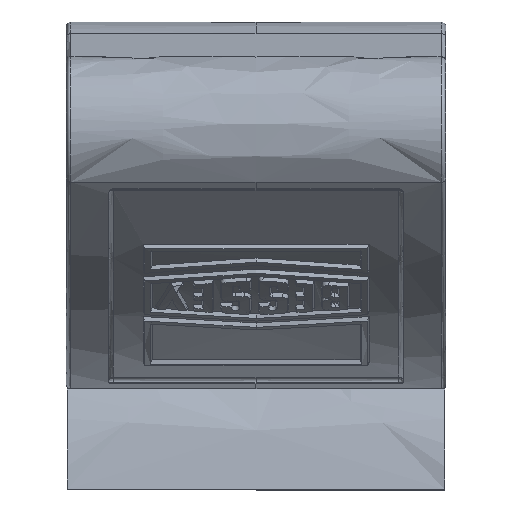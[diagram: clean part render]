
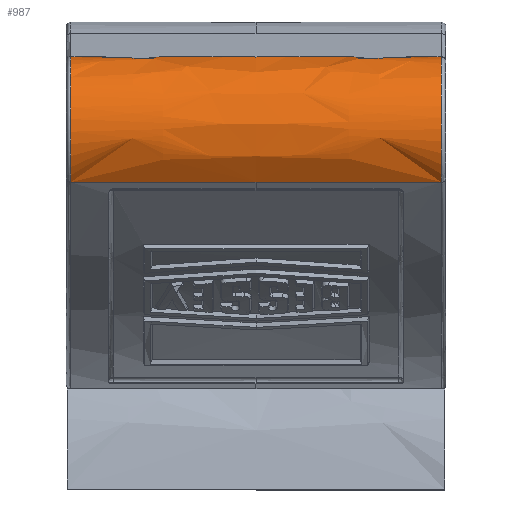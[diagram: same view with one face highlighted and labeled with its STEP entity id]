
A CAD part, top view. The second image highlights one B-rep face of the part: STEP entity #987.
In plain terms, the highlighted free-form (B-spline) face has degree [2, 1] with [7, 2] control points.
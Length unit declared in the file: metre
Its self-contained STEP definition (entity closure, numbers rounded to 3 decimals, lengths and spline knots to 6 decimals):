
#987 = ADVANCED_FACE( '', ( #2482 ), #2483, .T. );
#2482 = FACE_OUTER_BOUND( '', #6111, .T. );
#2483 = ( BOUNDED_SURFACE(  )B_SPLINE_SURFACE( 2, 1, ( ( #6114, #6115 ), ( #6116, #6117 ), ( #6118, #6119 ), ( #6120, #6121 ), ( #6122, #6123 ), ( #6124, #6125 ), ( #6126, #6127 ) ), .UNSPECIFIED., .F., .F., .F. )B_SPLINE_SURFACE_WITH_KNOTS( ( 3, 2, 2, 3 ), ( 2, 2 ), ( 0., 0.25, 0.5, 0.519236 ), ( 0.011111, 0.988889 ), .UNSPECIFIED. )GEOMETRIC_REPRESENTATION_ITEM(  )RATIONAL_B_SPLINE_SURFACE( ( ( 1., 1. ), ( 0.707, 0.707 ), ( 1., 1. ), ( 0.707, 0.707 ), ( 1., 1. ), ( 0.977, 0.977 ), ( 0.958, 0.958 ) ) )REPRESENTATION_ITEM( '' )SURFACE(  ) );
#6111 = EDGE_LOOP( '', ( #13664, #13665, #13666, #13667, #13668 ) );
#6114 = CARTESIAN_POINT( '', ( 0.0352, 0.05814, 0.101431 ) );
#6115 = CARTESIAN_POINT( '', ( -0.0352, 0.05814, 0.101431 ) );
#6116 = CARTESIAN_POINT( '', ( 0.0352, 0.068938, 0.110908 ) );
#6117 = CARTESIAN_POINT( '', ( -0.0352, 0.068938, 0.110908 ) );
#6118 = CARTESIAN_POINT( '', ( 0.0352, 0.078415, 0.10011 ) );
#6119 = CARTESIAN_POINT( '', ( -0.0352, 0.078415, 0.10011 ) );
#6120 = CARTESIAN_POINT( '', ( 0.0352, 0.087892, 0.089313 ) );
#6121 = CARTESIAN_POINT( '', ( -0.0352, 0.087892, 0.089313 ) );
#6122 = CARTESIAN_POINT( '', ( 0.0352, 0.077094, 0.079836 ) );
#6123 = CARTESIAN_POINT( '', ( -0.0352, 0.077094, 0.079836 ) );
#6124 = CARTESIAN_POINT( '', ( 0.0352, 0.076493, 0.079308 ) );
#6125 = CARTESIAN_POINT( '', ( -0.0352, 0.076493, 0.079308 ) );
#6126 = CARTESIAN_POINT( '', ( 0.0352, 0.075838, 0.07885 ) );
#6127 = CARTESIAN_POINT( '', ( -0.0352, 0.075838, 0.07885 ) );
#13664 = ORIENTED_EDGE( '', *, *, #17907, .T. );
#13665 = ORIENTED_EDGE( '', *, *, #17804, .T. );
#13666 = ORIENTED_EDGE( '', *, *, #17908, .F. );
#13667 = ORIENTED_EDGE( '', *, *, #17909, .T. );
#13668 = ORIENTED_EDGE( '', *, *, #17910, .T. );
#17804 = EDGE_CURVE( '', #20827, #20841, #20843, .T. );
#17907 = EDGE_CURVE( '', #19601, #20827, #21022, .T. );
#17908 = EDGE_CURVE( '', #20739, #20841, #21023, .T. );
#17909 = EDGE_CURVE( '', #20739, #21024, #21025, .T. );
#17910 = EDGE_CURVE( '', #21024, #19601, #21026, .T. );
#19601 = VERTEX_POINT( '', #23447 );
#20739 = VERTEX_POINT( '', #27817 );
#20827 = VERTEX_POINT( '', #28191 );
#20841 = VERTEX_POINT( '', #28320 );
#20843 = B_SPLINE_CURVE_WITH_KNOTS( '', 1, ( #28369, #28370 ), .UNSPECIFIED., .F., .F., ( 2, 2 ), ( 0., 0.975 ), .UNSPECIFIED. );
#21022 = B_SPLINE_CURVE_WITH_KNOTS( '', 1, ( #29011, #29012 ), .UNSPECIFIED., .F., .F., ( 2, 2 ), ( 0.025, 1. ), .UNSPECIFIED. );
#21023 = ( BOUNDED_CURVE(  )B_SPLINE_CURVE( 2, ( #29015, #29016, #29017, #29018, #29019, #29020, #29021 ), .UNSPECIFIED., .F., .F. )B_SPLINE_CURVE_WITH_KNOTS( ( 3, 2, 2, 3 ), ( 0., 0.333333, 0.666667, 1. ), .UNSPECIFIED. )CURVE(  )GEOMETRIC_REPRESENTATION_ITEM(  )RATIONAL_B_SPLINE_CURVE( ( 1., 0.857, 1., 0.857, 1., 0.857, 1. ) )REPRESENTATION_ITEM( '' ) );
#21024 = VERTEX_POINT( '', #29027 );
#21025 = ( BOUNDED_CURVE(  )B_SPLINE_CURVE( 1, ( #29030, #29031 ), .UNSPECIFIED., .F., .F. )B_SPLINE_CURVE_WITH_KNOTS( ( 2, 2 ), ( 0.0125, 0.9875 ), .UNSPECIFIED. )CURVE(  )GEOMETRIC_REPRESENTATION_ITEM(  )RATIONAL_B_SPLINE_CURVE( ( 0.958, 0.958 ) )REPRESENTATION_ITEM( '' ) );
#21026 = ( BOUNDED_CURVE(  )B_SPLINE_CURVE( 2, ( #29039, #29040, #29041, #29042, #29043, #29044, #29045 ), .UNSPECIFIED., .F., .F. )B_SPLINE_CURVE_WITH_KNOTS( ( 3, 2, 2, 3 ), ( 0., 0.037046, 0.518523, 1. ), .UNSPECIFIED. )CURVE(  )GEOMETRIC_REPRESENTATION_ITEM(  )RATIONAL_B_SPLINE_CURVE( ( 0.958, 0.977, 1., 0.707, 1., 0.707, 1. ) )REPRESENTATION_ITEM( '' ) );
#23447 = CARTESIAN_POINT( '', ( -0.0351, 0.05814, 0.101431 ) );
#27817 = CARTESIAN_POINT( '', ( 0.0351, 0.075838, 0.07885 ) );
#28191 = CARTESIAN_POINT( '', ( 0., 0.05814, 0.101431 ) );
#28320 = CARTESIAN_POINT( '', ( 0.0351, 0.05814, 0.101431 ) );
#28369 = CARTESIAN_POINT( '', ( 0., 0.05814, 0.101431 ) );
#28370 = CARTESIAN_POINT( '', ( 0.0351, 0.05814, 0.101431 ) );
#29011 = CARTESIAN_POINT( '', ( -0.0351, 0.05814, 0.101431 ) );
#29012 = CARTESIAN_POINT( '', ( 0., 0.05814, 0.101431 ) );
#29015 = CARTESIAN_POINT( '', ( 0.0351, 0.075838, 0.07885 ) );
#29016 = CARTESIAN_POINT( '', ( 0.0351, 0.082935, 0.083802 ) );
#29017 = CARTESIAN_POINT( '', ( 0.0351, 0.081876, 0.09239 ) );
#29018 = CARTESIAN_POINT( '', ( 0.0351, 0.080818, 0.100979 ) );
#29019 = CARTESIAN_POINT( '', ( 0.0351, 0.072731, 0.104059 ) );
#29020 = CARTESIAN_POINT( '', ( 0.0351, 0.064644, 0.107139 ) );
#29021 = CARTESIAN_POINT( '', ( 0.0351, 0.05814, 0.101431 ) );
#29027 = CARTESIAN_POINT( '', ( -0.0351, 0.075838, 0.07885 ) );
#29030 = CARTESIAN_POINT( '', ( 0.0351, 0.075838, 0.07885 ) );
#29031 = CARTESIAN_POINT( '', ( -0.0351, 0.075838, 0.07885 ) );
#29039 = CARTESIAN_POINT( '', ( -0.0351, 0.075838, 0.07885 ) );
#29040 = CARTESIAN_POINT( '', ( -0.0351, 0.076493, 0.079308 ) );
#29041 = CARTESIAN_POINT( '', ( -0.0351, 0.077094, 0.079836 ) );
#29042 = CARTESIAN_POINT( '', ( -0.0351, 0.087892, 0.089313 ) );
#29043 = CARTESIAN_POINT( '', ( -0.0351, 0.078415, 0.10011 ) );
#29044 = CARTESIAN_POINT( '', ( -0.0351, 0.068938, 0.110908 ) );
#29045 = CARTESIAN_POINT( '', ( -0.0351, 0.05814, 0.101431 ) );
